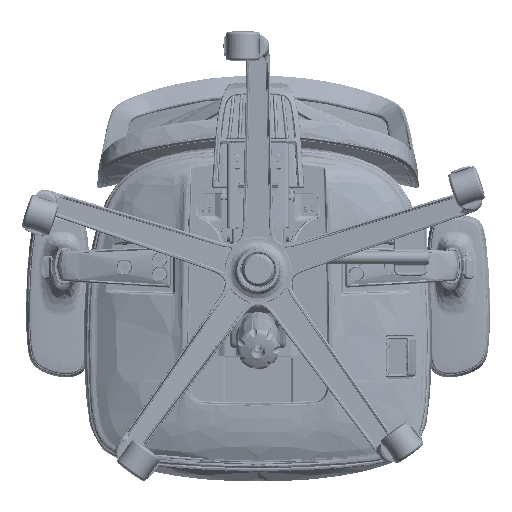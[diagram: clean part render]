
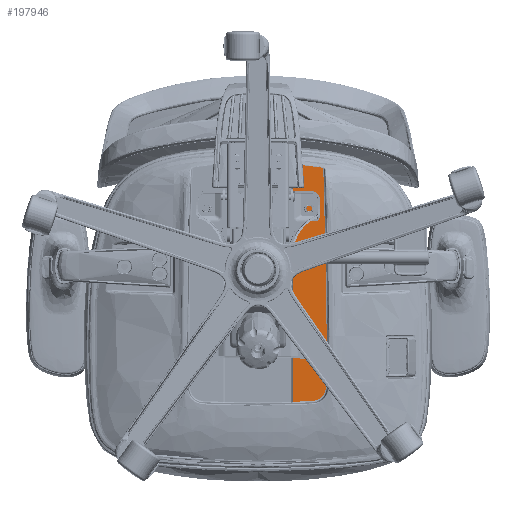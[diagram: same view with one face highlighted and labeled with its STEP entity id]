
A CAD part, front view. The second image highlights one B-rep face of the part: STEP entity #197946.
In plain terms, the highlighted planar face has unit normal (0, -0.999, -0.035).
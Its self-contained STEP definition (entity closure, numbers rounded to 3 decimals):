
#187005=CARTESIAN_POINT('',(-3.074,367.482,
-428.635));
#187006=DIRECTION('',(0.,0.999,0.035));
#187007=DIRECTION('',(0.09,-0.035,0.995));
#187008=AXIS2_PLACEMENT_3D('',#187005,#187006,#187007);
#187010=CARTESIAN_POINT('',(56.314,346.637,167.65));
#187011=CARTESIAN_POINT('',(62.661,346.659,
167.019));
#187012=CARTESIAN_POINT('',(75.355,346.701,
165.805));
#187013=CARTESIAN_POINT('',(88.001,346.756,
164.227));
#187014=CARTESIAN_POINT('',(94.232,346.801,
162.957));
#187016=DIRECTION('',(0.026,0.035,-0.999));
#187017=VECTOR('',#187016,108.609);
#187018=CARTESIAN_POINT('',(94.232,346.801,
162.957));
#187019=LINE('',#187018,#187017);
#187020=CARTESIAN_POINT('',(97.079,350.59,
54.451));
#187021=CARTESIAN_POINT('',(97.373,350.979,
43.294));
#187022=CARTESIAN_POINT('',(97.878,351.759,
20.979));
#187023=CARTESIAN_POINT('',(98.471,352.928,
-12.498));
#187024=CARTESIAN_POINT('',(98.859,354.097,
-45.978));
#187025=CARTESIAN_POINT('',(99.023,355.071,
-73.879));
#187026=CARTESIAN_POINT('',(99.05,355.851,
-96.2));
#187027=CARTESIAN_POINT('',(99.039,356.435,
-112.943));
#187028=CARTESIAN_POINT('',(98.914,357.02,
-129.676));
#187029=CARTESIAN_POINT('',(98.969,357.508,
-143.65));
#187030=CARTESIAN_POINT('',(98.468,357.894,
-154.729));
#187031=CARTESIAN_POINT('',(96.55,358.175,
-162.754));
#187032=CARTESIAN_POINT('',(91.621,358.408,
-169.425));
#187033=CARTESIAN_POINT('',(84.395,358.545,
-173.357));
#187034=CARTESIAN_POINT('',(76.108,358.569,
-174.041));
#187035=CARTESIAN_POINT('',(67.734,358.579,
-174.337));
#187036=CARTESIAN_POINT('',(59.37,358.591,
-174.667));
#187037=CARTESIAN_POINT('',(53.79,358.597,
-174.842));
#187038=CARTESIAN_POINT('',(51.,358.6,
-174.925));
#187057=DIRECTION('',(0.,0.035,-0.999));
#187058=VECTOR('',#187057,343.289);
#187059=CARTESIAN_POINT('',(51.,346.619,
168.155));
#187060=LINE('',#187059,#187058);
#188999=VERTEX_POINT('',#187010);
#189000=VERTEX_POINT('',#187014);
#189010=CARTESIAN_POINT('',(51.,346.619,
168.155));
#189011=VERTEX_POINT('',#189010);
#189012=CARTESIAN_POINT('',(97.079,350.59,
54.451));
#189013=VERTEX_POINT('',#189012);
#189014=VERTEX_POINT('',#187038);
#197930=CARTESIAN_POINT('',(0.,352.062,12.294));
#197931=DIRECTION('',(0.,-0.999,-0.035));
#197932=DIRECTION('',(0.,0.035,-0.999));
#197933=AXIS2_PLACEMENT_3D('',#197930,#197931,#197932);
#197934=PLANE('',#197933);
#197936=ORIENTED_EDGE('',*,*,#197935,.T.);
#197937=ORIENTED_EDGE('',*,*,#197920,.T.);
#197939=ORIENTED_EDGE('',*,*,#197938,.T.);
#197941=ORIENTED_EDGE('',*,*,#197940,.T.);
#197943=ORIENTED_EDGE('',*,*,#197942,.F.);
#197944=EDGE_LOOP('',(#197936,#197937,#197939,#197941,#197943));
#197945=FACE_OUTER_BOUND('',#197944,.F.);
#187009=CIRCLE('',#187008,599.598);
#187015=B_SPLINE_CURVE_WITH_KNOTS('',3,(#187010,#187011,#187012,#187013,
#187014),.UNSPECIFIED.,.F.,.F.,(4,1,4),(0.,0.5,1.),.UNSPECIFIED.);
#187039=B_SPLINE_CURVE_WITH_KNOTS('',3,(#187020,#187021,#187022,#187023,#187024,
#187025,#187026,#187027,#187028,#187029,#187030,#187031,#187032,#187033,#187034,
#187035,#187036,#187037,#187038),.UNSPECIFIED.,.F.,.F.,(4,1,1,1,1,1,1,1,1,1,1,1,
1,1,1,1,4),(0.,0.125,0.25,0.375,0.5,0.563,0.625,0.688,0.75,
0.781,0.813,0.844,0.875,0.906,0.938,0.969,1.),
.UNSPECIFIED.);
#197920=EDGE_CURVE('',#188999,#189000,#187015,.T.);
#197935=EDGE_CURVE('',#189011,#188999,#187009,.T.);
#197938=EDGE_CURVE('',#189000,#189013,#187019,.T.);
#197940=EDGE_CURVE('',#189013,#189014,#187039,.T.);
#197942=EDGE_CURVE('',#189011,#189014,#187060,.T.);
#197946=ADVANCED_FACE('',(#197945),#197934,.T.);
